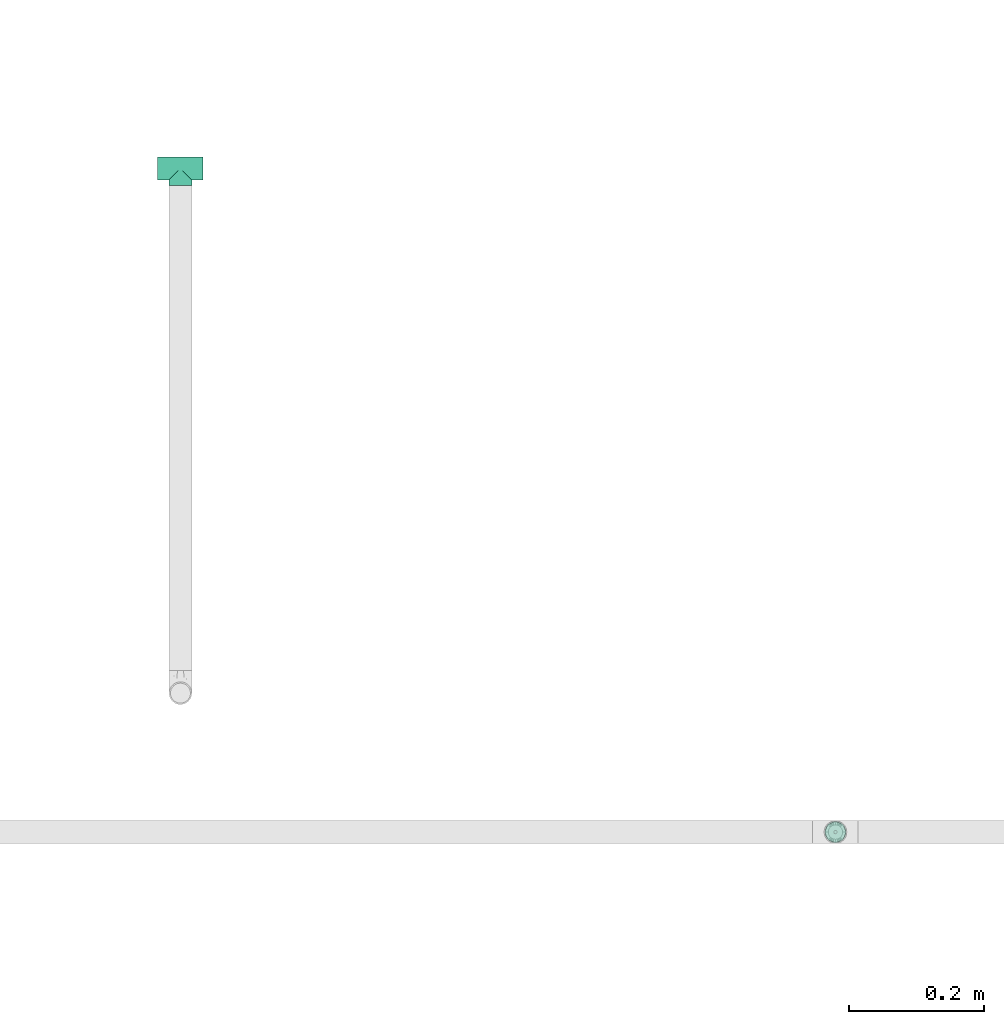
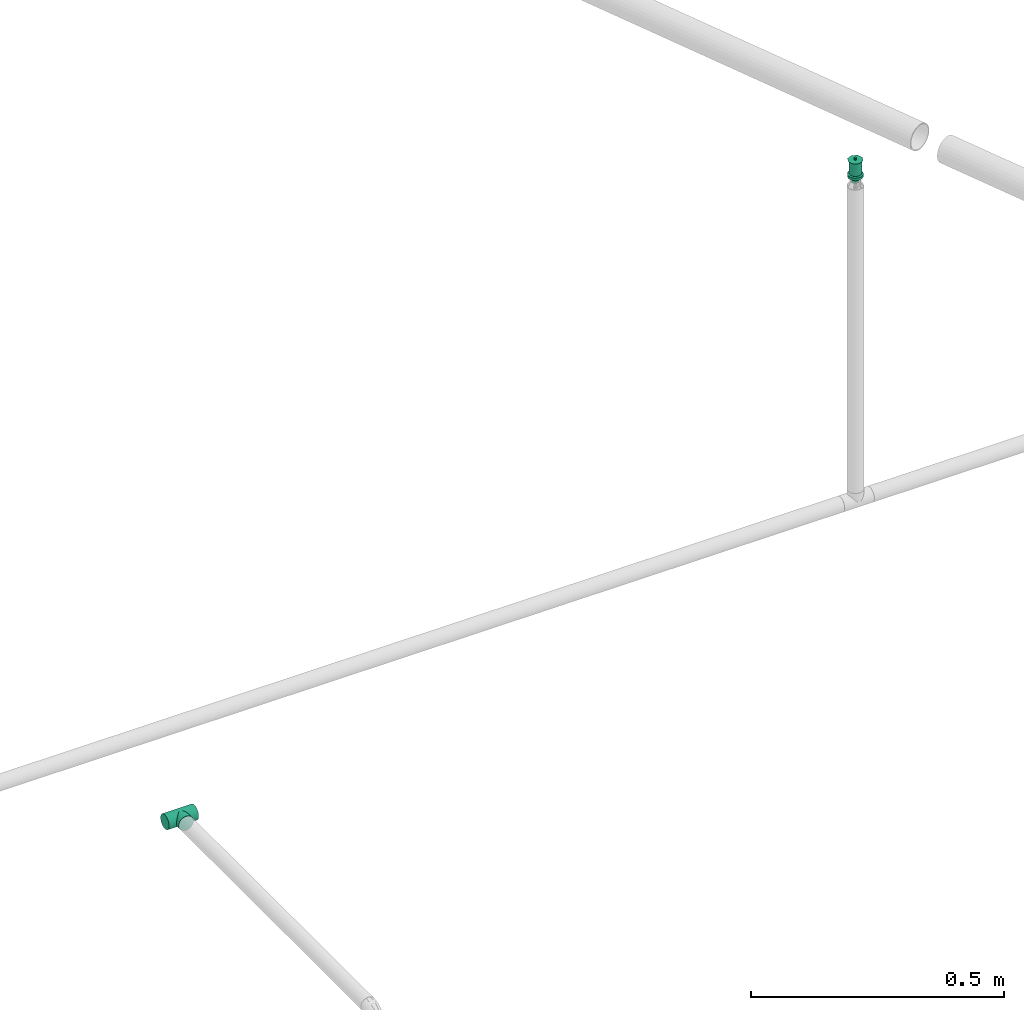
# One storey, part 30 of 94: 1 flow fitting, 1 flow terminal.
"""IFC2X3 building model written with IfcOpenShell, lengths in millimetres."""

from ifc_helpers import new_model, entity, si_unit, converted_unit, derived_unit, direction, frame, origin_with_axes, place, context, subcontext, project, spatial, open_shell, surface_model, source, transform, mapped, type_object, element, save


model = new_model("IFC2X3")

# Units and contexts
model_context = context("Model", 3, precision=0.01, world=frame((0.0, 4.29681676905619e-09, 0.0)), true_north=direction((4.01073788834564e-13, 1.0)))
plan_context = context("Plan", 3, precision=0.01, world=frame((0.0, 4.29681676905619e-09, 0.0)), true_north=direction((4.01073788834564e-13, 1.0)))
body_context = subcontext(model_context, "Body", "Model", "MODEL_VIEW")
ifc_project = project(units=[converted_unit("PLANEANGLEUNIT", "DEGREE", entity("IfcPositiveLengthMeasure", 0.0174532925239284), si_unit("PLANEANGLEUNIT", "RADIAN"), dimensions=[0, 0, 0, 0, 0, 0, 0]), si_unit("AREAUNIT", "SQUARE_METRE"), si_unit("LENGTHUNIT", "METRE", prefix="MILLI"), si_unit("MASSUNIT", "GRAM", prefix="KILO"), si_unit("POWERUNIT", "WATT"), si_unit("PRESSUREUNIT", "PASCAL", prefix="KILO"), si_unit("FORCEUNIT", "NEWTON", prefix="KILO"), si_unit("ELECTRICVOLTAGEUNIT", "VOLT"), si_unit("ELECTRICCURRENTUNIT", "AMPERE"), si_unit("THERMODYNAMICTEMPERATUREUNIT", "DEGREE_CELSIUS"), si_unit("TIMEUNIT", "SECOND"), si_unit("VOLUMEUNIT", "CUBIC_METRE"), derived_unit("LINEARVELOCITYUNIT", [(si_unit("LENGTHUNIT", "METRE"), 1), (si_unit("TIMEUNIT", "SECOND"), -1)]), derived_unit("VOLUMETRICFLOWRATEUNIT", [(si_unit("VOLUMEUNIT", "CUBIC_METRE"), 1), (si_unit("TIMEUNIT", "SECOND"), -1)]), derived_unit("THERMALTRANSMITTANCEUNIT", [(si_unit("POWERUNIT", "WATT"), 1), (si_unit("THERMODYNAMICTEMPERATUREUNIT", "KELVIN"), -1), (si_unit("AREAUNIT", "SQUARE_METRE"), -1)]), derived_unit("SOUNDPRESSUREUNIT", [(si_unit("PRESSUREUNIT", "PASCAL"), 1)])], contexts=[model_context, plan_context])

# Site, building, storey
site_placement = place(None, frame((0.0, -4.29681676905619e-09, 0.0), z_axis=(0.0, 0.0, 1.0), x_axis=(1.0, 0.0, 0.0)))
site = spatial("IfcSite", under=ifc_project, at=site_placement, CompositionType="ELEMENT")
building_placement = place(site_placement, frame((0.0, 4.29681676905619e-09, 0.0), z_axis=(0.0, 0.0, 1.0), x_axis=(1.0, 0.0, 0.0)))
building = spatial("IfcBuilding", under=site, at=building_placement, Name="mc-building", CompositionType="ELEMENT")
storey_placement = place(building_placement, frame((0.0, 0.0, 210900.0), z_axis=(0.0, 0.0, 1.0), x_axis=(1.0, 0.0, 0.0)))
storey = spatial("IfcBuildingStorey", under=building, at=storey_placement, Name="Nivå F", CompositionType="ELEMENT", Elevation=210900.0)

# Flow fitting
pipe_fitting_type = type_object("IfcPipeFittingType", Name="magi_pipe_fe_tee_centric_90_NOR", PredefinedType="JUNCTION")
shared_shape_1 = source(origin_with_axes(), body_context, "Body", "SurfaceModel", [
    surface_model("IfcShellBasedSurfaceModel", [(-33.8, 4.37404, -16.32415), (-33.8, 0.0, -16.9), (-33.8, 16.32415, -4.37404), (-33.8, 8.45, -14.63583), (-33.8, 11.9501, -11.9501), (-33.8, 14.63583, -8.45), (-33.8, -16.9, 0.0), (-33.8, -11.9501, -11.9501), (-33.8, -14.63583, -8.45), (-33.8, -8.45, -14.63583), (-33.8, -4.37404, -16.32415), (-33.8, -16.32415, -4.37404), (-33.8, 14.63583, 8.45), (-33.8, 16.32415, 4.37404), (-33.8, -8.45, 14.63583), (-33.8, 8.45, 14.63583), (-33.8, 11.9501, 11.9501), (-33.8, 4.37404, 16.32415), (-33.8, 0.0, 16.9), (-33.8, -11.9501, 11.9501), (-33.8, -14.63583, 8.45), (-33.8, -16.32415, 4.37404), (-33.8, -4.37404, 16.32415), (-33.8, 16.9, 0.0), (33.8, 4.37404, -16.32415), (33.8, -16.9, 0.0), (33.8, 0.0, -16.9), (33.8, 14.63583, -8.45), (33.8, 8.45, -14.63583), (33.8, 16.32415, -4.37404), (33.8, 11.9501, -11.9501), (33.8, -16.32415, 4.37404), (33.8, -8.45, -14.63583), (33.8, -4.37404, -16.32415), (33.8, -11.9501, -11.9501), (33.8, -14.63583, -8.45), (33.8, -16.32415, -4.37404), (33.8, 16.32415, 4.37404), (33.8, 8.45, 14.63583), (33.8, 14.63583, 8.45), (33.8, 11.9501, 11.9501), (33.8, -8.45, 14.63583), (33.8, 4.37404, 16.32415), (33.8, -14.63583, 8.45), (33.8, -11.9501, 11.9501), (33.8, 0.0, 16.9), (33.8, -4.37404, 16.32415), (33.8, 16.9, 0.0), (16.28698, -16.28698, 4.51047), (16.9, -16.9, 0.0), (14.62704, -14.62704, 8.4652), (9.47213, -9.47213, 13.99602), (12.26343, -12.26343, 11.62834), (-16.9, -16.9, 0.0), (-16.28698, -16.28698, 4.51047), (-14.62704, -14.62704, 8.4652), (-12.26343, -12.26343, 11.62834), (-9.47213, -9.47213, 13.99602), (-6.42894, -6.42894, 15.62942), (6.42894, -6.42894, 15.62942), (3.24522, -3.24522, 16.58549), (0.0, 0.0, 16.9), (-3.24522, -3.24522, 16.58549), (3.24522, -3.24522, -16.58549), (0.0, 0.0, -16.9), (-3.24522, -3.24522, -16.58549), (-6.42894, -6.42894, -15.62942), (6.42894, -6.42894, -15.62942), (9.47213, -9.47213, -13.99602), (12.26343, -12.26343, -11.62834), (14.62704, -14.62704, -8.4652), (16.28698, -16.28698, -4.51047), (-9.47213, -9.47213, -13.99602), (-12.26343, -12.26343, -11.62834), (-16.28698, -16.28698, -4.51047), (-14.62704, -14.62704, -8.4652), (4.37404, -25.35, -16.32415), (-16.9, -25.35, 0.0), (0.0, -25.35, -16.9), (14.63583, -25.35, -8.45), (8.45, -25.35, -14.63583), (16.32415, -25.35, -4.37404), (11.9501, -25.35, -11.9501), (-11.9501, -25.35, -11.9501), (-8.45, -25.35, -14.63583), (-4.37404, -25.35, -16.32415), (-14.63583, -25.35, -8.45), (-16.32415, -25.35, -4.37404), (16.9, -25.35, 0.0), (8.45, -25.35, 14.63583), (16.32415, -25.35, 4.37404), (14.63583, -25.35, 8.45), (-8.45, -25.35, 14.63583), (11.9501, -25.35, 11.9501), (4.37404, -25.35, 16.32415), (-16.32415, -25.35, 4.37404), (-11.9501, -25.35, 11.9501), (-14.63583, -25.35, 8.45), (0.0, -25.35, 16.9), (-4.37404, -25.35, 16.32415)], [open_shell([[[0, 1, 2]], [[3, 0, 4]], [[0, 2, 5]], [[4, 0, 5]], [[6, 2, 1]], [[7, 8, 9]], [[1, 10, 9]], [[11, 6, 8]], [[1, 9, 8]], [[1, 8, 6]], [[6, 12, 2]], [[12, 13, 2]], [[14, 12, 6]], [[12, 14, 15]], [[16, 12, 15]], [[17, 15, 18]], [[19, 14, 20]], [[21, 20, 14]], [[22, 18, 14]], [[14, 6, 21]], [[14, 18, 15]], [[23, 2, 13]], [[24, 25, 26]], [[27, 24, 28]], [[27, 29, 24]], [[27, 28, 30]], [[31, 25, 24]], [[26, 32, 33]], [[26, 34, 32]], [[35, 25, 36]], [[35, 34, 26]], [[25, 35, 26]], [[24, 29, 31]], [[29, 37, 38]], [[38, 37, 39]], [[38, 31, 29]], [[38, 39, 40]], [[41, 38, 42]], [[43, 41, 44]], [[41, 43, 31]], [[41, 45, 46]], [[41, 31, 38]], [[42, 45, 41]], [[29, 47, 37]], [[31, 43, 48]], [[25, 31, 49]], [[49, 31, 48]], [[43, 50, 48]], [[44, 41, 51]], [[50, 43, 52]], [[51, 52, 44]], [[52, 43, 44]], [[53, 54, 21]], [[53, 21, 6]], [[21, 54, 20]], [[54, 55, 20]], [[56, 57, 19]], [[19, 20, 56]], [[19, 57, 14]], [[56, 20, 55]], [[14, 57, 58]], [[51, 41, 59]], [[60, 45, 61]], [[59, 46, 60]], [[46, 59, 41]], [[60, 46, 45]], [[61, 45, 42]], [[39, 37, 13]], [[16, 38, 40]], [[12, 40, 39]], [[42, 38, 15]], [[23, 37, 47]], [[62, 61, 18]], [[62, 22, 58]], [[22, 62, 18]], [[58, 22, 14]], [[61, 17, 18]], [[42, 17, 61]], [[15, 17, 42]], [[15, 38, 16]], [[12, 16, 40]], [[13, 12, 39]], [[37, 23, 13]], [[5, 27, 30]], [[23, 47, 29]], [[30, 28, 3]], [[27, 2, 29]], [[26, 33, 63]], [[26, 64, 24]], [[64, 26, 63]], [[28, 24, 0]], [[64, 0, 24]], [[4, 30, 3]], [[2, 27, 5]], [[5, 30, 4]], [[2, 23, 29]], [[65, 66, 10]], [[1, 0, 64]], [[1, 65, 10]], [[66, 9, 10]], [[0, 3, 28]], [[1, 64, 65]], [[63, 33, 67]], [[32, 34, 68]], [[69, 68, 34]], [[35, 70, 69]], [[69, 34, 35]], [[32, 68, 67]], [[36, 25, 49]], [[36, 71, 35]], [[71, 36, 49]], [[35, 71, 70]], [[72, 9, 66]], [[72, 7, 9]], [[7, 72, 73]], [[7, 73, 8]], [[74, 53, 11]], [[75, 74, 8]], [[74, 11, 8]], [[11, 53, 6]], [[75, 8, 73]], [[32, 67, 33]], [[76, 77, 78]], [[79, 76, 80]], [[79, 81, 76]], [[79, 80, 82]], [[77, 76, 81]], [[78, 83, 84]], [[84, 85, 78]], [[86, 77, 87]], [[83, 78, 86]], [[77, 86, 78]], [[81, 88, 77]], [[89, 88, 90]], [[89, 90, 91]], [[92, 77, 89]], [[89, 91, 93]], [[92, 89, 94]], [[95, 96, 97]], [[96, 95, 92]], [[92, 98, 99]], [[95, 77, 92]], [[94, 98, 92]], [[89, 77, 88]], [[77, 95, 53]], [[54, 53, 95]], [[97, 96, 56]], [[96, 92, 57]], [[95, 97, 54]], [[58, 92, 99]], [[55, 54, 97]], [[56, 55, 97]], [[58, 57, 92]], [[98, 61, 62]], [[58, 99, 62]], [[56, 96, 57]], [[62, 99, 98]], [[94, 60, 98]], [[89, 59, 94]], [[91, 90, 48]], [[52, 93, 91]], [[93, 51, 89]], [[49, 90, 88]], [[59, 60, 94]], [[51, 59, 89]], [[49, 48, 90]], [[50, 52, 91]], [[48, 50, 91]], [[51, 93, 52]], [[98, 60, 61]], [[88, 81, 49]], [[71, 49, 81]], [[79, 82, 69]], [[82, 80, 68]], [[81, 79, 71]], [[67, 80, 76]], [[70, 71, 79]], [[69, 70, 79]], [[67, 68, 80]], [[78, 64, 63]], [[67, 76, 63]], [[69, 82, 68]], [[63, 76, 78]], [[85, 65, 78]], [[84, 66, 85]], [[86, 87, 74]], [[86, 73, 83]], [[72, 84, 83]], [[53, 87, 77]], [[66, 65, 85]], [[72, 66, 84]], [[53, 74, 87]], [[75, 73, 86]], [[74, 75, 86]], [[72, 83, 73]], [[78, 65, 64]]])]),
])
flow_fitting_placement = place(storey_placement, frame((719000.0, 436180.95076, 2575.41227999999), z_axis=(-1.1999999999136e-05, 0.0, -0.999999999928), x_axis=(-0.999999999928, 0.0, 1.1999999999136e-05)))
element("IfcFlowFitting", 1, at=flow_fitting_placement, inside=storey, type_object=pipe_fitting_type, Name="magi_pipe_fe_tee_centric_90_NOR", context=body_context, shape_type="MappedRepresentation", body=[
    mapped(shared_shape_1, transform((0.0, 0.0, 0.0), scale=1.0)),
])

# Flow terminal
fire_suppression_terminal_type = type_object("IfcFireSuppressionTerminalType", Name="68DGR-STD-STÅENDE", PredefinedType="NOTDEFINED")
shared_shape_2 = source(origin_with_axes(), body_context, "Body", "SurfaceModel", [
    surface_model("IfcShellBasedSurfaceModel", [(3.36465, -12.55704, 51.0), (6.5, -11.25833, 51.0), (9.19239, -9.19239, 51.0), (12.55704, -3.36465, 51.0), (-11.25833, -6.5, 51.0), (11.25833, -6.5, 51.0), (-13.0, 0.0, 51.0), (0.0, -13.0, 51.0), (-6.5, -11.25833, 51.0), (-3.36465, -12.55704, 51.0), (-9.19239, -9.19239, 51.0), (-12.55704, -3.36465, 51.0), (13.0, 0.0, 51.0), (12.55704, 3.36465, 51.0), (11.25833, 6.5, 51.0), (9.19239, 9.19239, 51.0), (6.5, 11.25833, 51.0), (3.36465, 12.55704, 51.0), (0.0, 13.0, 51.0), (-3.36465, 12.55704, 51.0), (-12.55704, 3.36465, 51.0), (-9.19239, 9.19239, 51.0), (-11.25833, 6.5, 51.0), (-6.5, 11.25833, 51.0), (0.0, 13.0, 21.14766), (3.36465, 12.55704, 21.14766), (6.5, 11.25833, 21.14766), (-3.36465, 12.55704, 21.14766), (9.19239, 9.19239, 21.14766), (11.25833, 6.5, 21.14766), (12.55704, 3.36465, 21.14766), (-12.55704, 3.36465, 21.14766), (-11.25833, -6.5, 21.14766), (-9.19239, 9.19239, 21.14766), (-6.5, 11.25833, 21.14766), (-11.25833, 6.5, 21.14766), (-13.0, 0.0, 21.14766), (12.55704, -3.36465, 21.14766), (9.19239, -9.19239, 21.14766), (11.25833, -6.5, 21.14766), (6.5, -11.25833, 21.14766), (3.36465, -12.55704, 21.14766), (-6.5, -11.25833, 21.14766), (-9.19239, -9.19239, 21.14766), (-12.55704, -3.36465, 21.14766), (0.0, -13.0, 21.14766), (-3.36465, -12.55704, 21.14766), (13.0, 0.0, 21.14766), (7.24444, -1.94114, 0.1), (1.94114, -7.24444, 0.1), (3.75, -6.49519, 0.1), (5.3033, -5.3033, 0.1), (-5.3033, -5.3033, 0.1), (6.49519, -3.75, 0.1), (5.3033, 5.3033, 0.1), (0.0, -7.5, 0.1), (-3.75, -6.49519, 0.1), (-1.94114, -7.24444, 0.1), (-7.24444, -1.94114, 0.1), (-6.49519, -3.75, 0.1), (-7.24444, 1.94114, 0.1), (7.5, 0.0, 0.1), (6.49519, 3.75, 0.1), (-6.49519, 3.75, 0.1), (1.94114, 7.24444, 0.1), (0.0, 7.5, 0.1), (3.75, 6.49519, 0.1), (-7.5, 0.0, 0.1), (-5.3033, 5.3033, 0.1), (-1.94114, 7.24444, 0.1), (-3.75, 6.49519, 0.1), (7.24444, 1.94114, 0.1), (1.94114, 7.24444, -0.1), (-6.49519, 3.75, -0.1), (0.0, 7.5, -0.1), (5.3033, 5.3033, -0.1), (3.75, 6.49519, -0.1), (6.49519, 3.75, -0.1), (7.24444, 1.94114, -0.1), (-1.94114, 7.24444, -0.1), (-5.3033, 5.3033, -0.1), (-3.75, 6.49519, -0.1), (-7.24444, 1.94114, -0.1), (-7.24444, -1.94114, -0.1), (-7.5, 0.0, -0.1), (7.5, 0.0, -0.1), (7.24444, -1.94114, -0.1), (-5.3033, -5.3033, -0.1), (1.94114, -7.24444, -0.1), (6.49519, -3.75, -0.1), (5.3033, -5.3033, -0.1), (3.75, -6.49519, -0.1), (-6.49519, -3.75, -0.1), (-3.75, -6.49519, -0.1), (0.0, -7.5, -0.1), (-1.94114, -7.24444, -0.1), (0.0, -2.5, 51.0), (-2.5, 0.0, 51.0), (0.0, 2.5, 51.0), (2.5, 0.0, 51.0), (0.0, -16.0, 53.0), (11.31371, -11.31371, 53.0), (-11.31371, -11.31371, 53.0), (-16.0, 0.0, 53.0), (16.0, 0.0, 53.0), (11.31371, 11.31371, 53.0), (0.0, 16.0, 53.0), (-11.31371, 11.31371, 53.0), (1.25, -2.16506, 57.0), (0.0, -2.5, 57.0), (0.64705, -2.41481, 57.0), (2.41481, -0.64705, 57.0), (1.76777, -1.76777, 57.0), (-2.41481, -0.64705, 57.0), (-2.5, 0.0, 57.0), (2.16506, -1.25, 57.0), (-1.25, -2.16506, 57.0), (-0.64705, -2.41481, 57.0), (-1.76777, -1.76777, 57.0), (-2.16506, -1.25, 57.0), (2.5, 0.0, 57.0), (2.41481, 0.64705, 57.0), (2.16506, 1.25, 57.0), (1.76777, 1.76777, 57.0), (0.64705, 2.41481, 57.0), (1.25, 2.16506, 57.0), (-1.76777, 1.76777, 57.0), (0.0, 2.5, 57.0), (-2.16506, 1.25, 57.0), (-2.41481, 0.64705, 57.0), (-0.64705, 2.41481, 57.0), (-1.25, 2.16506, 57.0), (1.25, 2.16506, 51.0), (1.76777, 1.76777, 51.0), (1.15, 1.99186, 51.0), (0.59528, 2.22163, 51.0), (0.64705, 2.41481, 51.0), (0.0, 2.3, 51.0), (1.62635, 1.62635, 51.0), (2.41481, 0.64705, 51.0), (2.3, 0.0, 51.0), (2.22163, 0.59528, 51.0), (2.16506, 1.25, 51.0), (1.99186, 1.15, 51.0), (-0.59528, 2.22163, 51.0), (-0.64705, 2.41481, 51.0), (-1.15, 1.99186, 51.0), (-1.76777, 1.76777, 51.0), (-1.25, 2.16506, 51.0), (-1.62635, 1.62635, 51.0), (-1.99186, 1.15, 51.0), (-2.16506, 1.25, 51.0), (-2.22163, 0.59528, 51.0), (-2.41481, 0.64705, 51.0), (-2.3, 0.0, 51.0), (2.41481, -0.64705, 51.0), (2.22163, -0.59528, 51.0), (1.99186, -1.15, 51.0), (2.16506, -1.25, 51.0), (1.62635, -1.62635, 51.0), (1.76777, -1.76777, 51.0), (1.25, -2.16506, 51.0), (1.15, -1.99186, 51.0), (0.59528, -2.22163, 51.0), (0.64705, -2.41481, 51.0), (0.0, -2.3, 51.0), (-2.16506, -1.25, 51.0), (-1.99186, -1.15, 51.0), (-1.76777, -1.76777, 51.0), (-1.62635, -1.62635, 51.0), (-2.41481, -0.64705, 51.0), (-2.22163, -0.59528, 51.0), (-0.59528, -2.22163, 51.0), (-0.64705, -2.41481, 51.0), (-1.15, -1.99186, 51.0), (-1.25, -2.16506, 51.0), (1.62635, -1.62635, 56.8), (1.15, -1.99186, 56.8), (0.59528, -2.22163, 56.8), (0.0, -2.3, 56.8), (2.22163, 0.59528, 56.8), (1.99186, -1.15, 56.8), (2.22163, -0.59528, 56.8), (-0.59528, -2.22163, 56.8), (-1.15, -1.99186, 56.8), (-1.62635, -1.62635, 56.8), (-1.99186, -1.15, 56.8), (-2.22163, -0.59528, 56.8), (-1.99186, 1.15, 56.8), (2.3, 0.0, 56.8), (1.62635, 1.62635, 56.8), (1.99186, 1.15, 56.8), (1.15, 1.99186, 56.8), (0.0, 2.3, 56.8), (0.59528, 2.22163, 56.8), (-2.22163, 0.59528, 56.8), (-2.3, 0.0, 56.8), (-1.15, 1.99186, 56.8), (-0.59528, 2.22163, 56.8), (-1.62635, 1.62635, 56.8), (4.1411, -15.45481, 19.0), (8.0, -13.85641, 19.0), (11.31371, -11.31371, 19.0), (-8.0, -13.85641, 19.0), (15.45481, -4.1411, 19.0), (16.0, 0.0, 19.0), (13.85641, -8.0, 19.0), (0.0, -16.0, 19.0), (-4.1411, -15.45481, 19.0), (-13.85641, -8.0, 19.0), (-11.31371, -11.31371, 19.0), (-15.45481, -4.1411, 19.0), (15.45481, 4.1411, 19.0), (13.85641, 8.0, 19.0), (11.31371, 11.31371, 19.0), (-4.1411, 15.45481, 19.0), (8.0, 13.85641, 19.0), (4.1411, 15.45481, 19.0), (0.0, 16.0, 19.0), (-13.85641, 8.0, 19.0), (-15.45481, 4.1411, 19.0), (-16.0, 0.0, 19.0), (-11.31371, 11.31371, 19.0), (-8.0, 13.85641, 19.0), (0.0, 16.0, 13.0), (4.1411, 15.45481, 13.0), (8.0, 13.85641, 13.0), (-4.1411, 15.45481, 13.0), (11.31371, 11.31371, 13.0), (13.85641, 8.0, 13.0), (15.45481, 4.1411, 13.0), (-15.45481, -4.1411, 13.0), (-11.31371, 11.31371, 13.0), (-8.0, 13.85641, 13.0), (-13.85641, 8.0, 13.0), (-15.45481, 4.1411, 13.0), (-16.0, 0.0, 13.0), (4.1411, -15.45481, 13.0), (16.0, 0.0, 13.0), (15.45481, -4.1411, 13.0), (13.85641, -8.0, 13.0), (11.31371, -11.31371, 13.0), (8.0, -13.85641, 13.0), (-8.0, -13.85641, 13.0), (-13.85641, -8.0, 13.0), (-11.31371, -11.31371, 13.0), (0.0, -16.0, 13.0), (-4.1411, -15.45481, 13.0), (7.24444, -1.94114, 13.0), (1.94114, -7.24444, 13.0), (3.75, -6.49519, 13.0), (5.3033, -5.3033, 13.0), (-5.3033, -5.3033, 13.0), (6.49519, -3.75, 13.0), (5.3033, 5.3033, 13.0), (0.0, -7.5, 13.0), (-3.75, -6.49519, 13.0), (-1.94114, -7.24444, 13.0), (-7.24444, -1.94114, 13.0), (-6.49519, -3.75, 13.0), (-7.24444, 1.94114, 13.0), (7.5, 0.0, 13.0), (6.49519, 3.75, 13.0), (-6.49519, 3.75, 13.0), (1.94114, 7.24444, 13.0), (0.0, 7.5, 13.0), (3.75, 6.49519, 13.0), (-7.5, 0.0, 13.0), (-5.3033, 5.3033, 13.0), (-1.94114, 7.24444, 13.0), (-3.75, 6.49519, 13.0), (7.24444, 1.94114, 13.0), (3.75, 6.49519, 0.0), (5.3033, 5.3033, 0.0), (3.65, 6.32199, 0.0), (1.88938, 7.05126, 0.0), (0.0, 7.3, 0.0), (1.94114, 7.24444, 0.0), (0.0, 7.5, 0.0), (5.16188, 5.16188, 0.0), (7.24444, 1.94114, 0.0), (7.3, 0.0, 0.0), (7.05126, 1.88938, 0.0), (7.5, 0.0, 0.0), (6.49519, 3.75, 0.0), (6.32199, 3.65, 0.0), (-1.88938, 7.05126, 0.0), (-1.94114, 7.24444, 0.0), (-3.65, 6.32199, 0.0), (-5.3033, 5.3033, 0.0), (-3.75, 6.49519, 0.0), (-5.16188, 5.16188, 0.0), (-6.32199, 3.65, 0.0), (-6.49519, 3.75, 0.0), (-7.05126, 1.88938, 0.0), (-7.24444, 1.94114, 0.0), (-7.3, 0.0, 0.0), (-7.5, 0.0, 0.0), (7.24444, -1.94114, 0.0), (7.05126, -1.88938, 0.0), (6.32199, -3.65, 0.0), (6.49519, -3.75, 0.0), (5.16188, -5.16188, 0.0), (5.3033, -5.3033, 0.0), (3.75, -6.49519, 0.0), (3.65, -6.32199, 0.0), (1.88938, -7.05126, 0.0), (1.94114, -7.24444, 0.0), (0.0, -7.3, 0.0), (0.0, -7.5, 0.0), (-6.49519, -3.75, 0.0), (-6.32199, -3.65, 0.0), (-5.3033, -5.3033, 0.0), (-5.16188, -5.16188, 0.0), (-7.24444, -1.94114, 0.0), (-7.05126, -1.88938, 0.0), (-1.88938, -7.05126, 0.0), (-1.94114, -7.24444, 0.0), (-3.65, -6.32199, 0.0), (-3.75, -6.49519, 0.0), (1.88938, -7.05126, 12.8), (0.0, -7.3, 12.8), (3.65, -6.32199, 12.8), (5.16188, -5.16188, 12.8), (6.32199, -3.65, 12.8), (7.05126, 1.88938, 12.8), (7.05126, -1.88938, 12.8), (-5.16188, -5.16188, 12.8), (-1.88938, -7.05126, 12.8), (-3.65, -6.32199, 12.8), (-6.32199, -3.65, 12.8), (-7.05126, -1.88938, 12.8), (0.0, 7.3, 12.8), (7.3, 0.0, 12.8), (6.32199, 3.65, 12.8), (5.16188, 5.16188, 12.8), (3.65, 6.32199, 12.8), (1.88938, 7.05126, 12.8), (-6.32199, 3.65, 12.8), (-7.05126, 1.88938, 12.8), (-7.3, 0.0, 12.8), (-3.65, 6.32199, 12.8), (-1.88938, 7.05126, 12.8), (-5.16188, 5.16188, 12.8)], [open_shell([[[0, 1, 2]], [[0, 2, 3]], [[0, 3, 4]], [[3, 2, 5]], [[6, 4, 3]], [[7, 8, 9]], [[7, 0, 8]], [[8, 4, 10]], [[0, 4, 8]], [[4, 6, 11]], [[6, 3, 12]], [[13, 14, 15]], [[6, 13, 15]], [[16, 17, 18]], [[15, 16, 19]], [[18, 19, 16]], [[20, 21, 22]], [[20, 6, 15]], [[21, 19, 23]], [[19, 21, 20]], [[15, 19, 20]], [[13, 6, 12]], [[24, 25, 26]], [[27, 24, 26]], [[28, 29, 30]], [[26, 28, 31]], [[28, 32, 31]], [[27, 33, 34]], [[33, 27, 31]], [[33, 31, 35]], [[27, 26, 31]], [[31, 32, 36]], [[32, 28, 30]], [[32, 30, 37]], [[38, 37, 39]], [[38, 40, 41]], [[38, 41, 37]], [[32, 37, 41]], [[32, 42, 43]], [[44, 36, 32]], [[42, 45, 46]], [[42, 32, 41]], [[45, 42, 41]], [[30, 47, 37]], [[4, 32, 43]], [[8, 42, 46]], [[43, 42, 10]], [[9, 46, 45]], [[36, 11, 6]], [[11, 36, 44]], [[11, 44, 4]], [[44, 32, 4]], [[43, 10, 4]], [[8, 10, 42]], [[46, 9, 8]], [[45, 7, 9]], [[0, 41, 40]], [[38, 1, 40]], [[5, 39, 37]], [[38, 39, 2]], [[3, 37, 47]], [[41, 0, 7]], [[40, 1, 0]], [[38, 2, 1]], [[39, 5, 2]], [[3, 5, 37]], [[47, 12, 3]], [[41, 7, 45]], [[30, 13, 47]], [[29, 14, 30]], [[25, 24, 17]], [[15, 29, 28]], [[30, 14, 13]], [[13, 12, 47]], [[16, 26, 17]], [[16, 15, 28]], [[26, 25, 17]], [[15, 14, 29]], [[28, 26, 16]], [[24, 18, 17]], [[19, 27, 34]], [[33, 23, 34]], [[22, 35, 31]], [[33, 35, 21]], [[20, 31, 36]], [[27, 19, 18]], [[34, 23, 19]], [[33, 21, 23]], [[35, 22, 21]], [[20, 22, 31]], [[36, 6, 20]], [[27, 18, 24]], [[48, 49, 50]], [[48, 50, 51]], [[49, 48, 52]], [[48, 51, 53]], [[54, 52, 48]], [[55, 56, 57]], [[56, 55, 52]], [[52, 58, 59]], [[52, 55, 49]], [[52, 60, 58]], [[54, 48, 61]], [[62, 54, 61]], [[54, 63, 52]], [[64, 65, 54]], [[64, 54, 66]], [[63, 54, 65]], [[63, 60, 52]], [[67, 58, 60]], [[68, 69, 70]], [[69, 68, 63]], [[69, 63, 65]], [[71, 62, 61]], [[72, 73, 74]], [[75, 72, 76]], [[75, 77, 78]], [[72, 75, 73]], [[78, 73, 75]], [[79, 80, 81]], [[80, 79, 73]], [[74, 73, 79]], [[78, 82, 73]], [[82, 83, 84]], [[82, 78, 85]], [[86, 87, 85]], [[88, 86, 89]], [[90, 91, 88]], [[90, 88, 89]], [[87, 86, 88]], [[83, 87, 92]], [[83, 85, 87]], [[93, 94, 95]], [[94, 93, 87]], [[88, 94, 87]], [[85, 83, 82]], [[83, 58, 84]], [[92, 59, 83]], [[56, 87, 93]], [[92, 87, 52]], [[57, 93, 95]], [[83, 59, 58]], [[58, 67, 84]], [[57, 56, 93]], [[52, 87, 56]], [[52, 59, 92]], [[55, 57, 95]], [[95, 94, 55]], [[88, 49, 94]], [[91, 50, 88]], [[53, 90, 89]], [[91, 90, 51]], [[48, 89, 86]], [[91, 51, 50]], [[50, 49, 88]], [[61, 48, 86]], [[53, 89, 48]], [[53, 51, 90]], [[85, 61, 86]], [[94, 49, 55]], [[78, 71, 85]], [[77, 62, 78]], [[66, 75, 76]], [[77, 75, 54]], [[64, 76, 72]], [[78, 62, 71]], [[71, 61, 85]], [[64, 66, 76]], [[54, 75, 66]], [[54, 62, 77]], [[65, 64, 72]], [[72, 74, 65]], [[79, 69, 74]], [[81, 70, 79]], [[63, 80, 73]], [[81, 80, 68]], [[60, 73, 82]], [[81, 68, 70]], [[70, 69, 79]], [[67, 60, 82]], [[63, 73, 60]], [[63, 68, 80]], [[84, 67, 82]], [[74, 69, 65]], [[96, 97, 98]], [[98, 99, 96]], [[100, 101, 102]], [[103, 102, 101]], [[101, 104, 103]], [[104, 105, 106]], [[107, 103, 106]], [[106, 103, 104]], [[99, 98, 105]], [[105, 104, 99]], [[98, 106, 105]], [[98, 107, 106]], [[107, 98, 97]], [[103, 107, 97]], [[97, 96, 102]], [[102, 103, 97]], [[96, 100, 102]], [[96, 101, 100]], [[101, 96, 99]], [[104, 101, 99]], [[108, 109, 110]], [[111, 108, 112]], [[113, 108, 114]], [[111, 112, 115]], [[108, 111, 114]], [[109, 116, 117]], [[116, 109, 118]], [[118, 113, 119]], [[118, 109, 108]], [[108, 113, 118]], [[111, 120, 114]], [[121, 122, 123]], [[114, 121, 123]], [[114, 123, 124]], [[124, 123, 125]], [[126, 124, 127]], [[124, 128, 129]], [[129, 114, 124]], [[126, 130, 131]], [[128, 124, 126]], [[130, 126, 127]], [[121, 114, 120]], [[132, 133, 134]], [[132, 134, 135]], [[136, 135, 137]], [[135, 136, 132]], [[136, 137, 98]], [[134, 133, 138]], [[139, 140, 141]], [[140, 139, 99]], [[139, 141, 142]], [[138, 142, 143]], [[142, 138, 133]], [[143, 142, 141]], [[98, 144, 145]], [[98, 137, 144]], [[145, 144, 146]], [[147, 148, 149]], [[146, 148, 145]], [[149, 148, 146]], [[150, 151, 147]], [[151, 150, 152]], [[150, 147, 149]], [[153, 152, 154]], [[152, 153, 151]], [[153, 154, 97]], [[99, 155, 156]], [[156, 155, 157]], [[157, 158, 159]], [[158, 157, 155]], [[159, 158, 160]], [[160, 161, 162]], [[162, 161, 163]], [[163, 164, 165]], [[164, 163, 161]], [[165, 164, 96]], [[162, 159, 160]], [[166, 167, 168]], [[168, 167, 169]], [[167, 166, 170]], [[97, 171, 170]], [[170, 171, 167]], [[97, 154, 171]], [[172, 96, 173]], [[172, 173, 174]], [[169, 175, 168]], [[175, 169, 174]], [[175, 174, 173]], [[165, 96, 172]], [[156, 140, 99]], [[170, 113, 97]], [[166, 119, 170]], [[116, 168, 175]], [[166, 168, 118]], [[117, 175, 173]], [[170, 119, 113]], [[113, 114, 97]], [[117, 116, 175]], [[118, 168, 116]], [[118, 119, 166]], [[109, 117, 173]], [[173, 96, 109]], [[164, 110, 96]], [[161, 108, 164]], [[115, 160, 158]], [[161, 160, 112]], [[111, 158, 155]], [[161, 112, 108]], [[108, 110, 164]], [[120, 111, 155]], [[115, 158, 111]], [[115, 112, 160]], [[99, 120, 155]], [[96, 110, 109]], [[139, 121, 99]], [[142, 122, 139]], [[125, 133, 132]], [[142, 133, 123]], [[124, 132, 136]], [[139, 122, 121]], [[121, 120, 99]], [[124, 125, 132]], [[123, 133, 125]], [[123, 122, 142]], [[127, 124, 136]], [[136, 98, 127]], [[145, 130, 98]], [[148, 131, 145]], [[128, 147, 151]], [[148, 147, 126]], [[129, 151, 153]], [[148, 126, 131]], [[131, 130, 145]], [[114, 129, 153]], [[128, 151, 129]], [[128, 126, 147]], [[97, 114, 153]], [[98, 130, 127]], [[176, 177, 178]], [[176, 178, 179]], [[180, 176, 179]], [[181, 176, 182]], [[180, 182, 176]], [[183, 184, 179]], [[185, 179, 184]], [[186, 187, 185]], [[185, 187, 188]], [[179, 185, 188]], [[189, 182, 180]], [[190, 191, 180]], [[192, 190, 180]], [[193, 194, 192]], [[180, 193, 192]], [[188, 193, 180]], [[195, 188, 196]], [[196, 188, 187]], [[197, 198, 199]], [[188, 199, 198]], [[188, 198, 193]], [[180, 179, 188]], [[154, 187, 171]], [[171, 186, 167]], [[174, 169, 184]], [[185, 169, 167]], [[172, 174, 183]], [[187, 186, 171]], [[154, 196, 187]], [[174, 184, 183]], [[184, 169, 185]], [[167, 186, 185]], [[172, 183, 179]], [[179, 165, 172]], [[165, 178, 163]], [[163, 177, 162]], [[157, 159, 181]], [[176, 159, 162]], [[156, 157, 182]], [[177, 176, 162]], [[163, 178, 177]], [[156, 182, 189]], [[182, 157, 181]], [[159, 176, 181]], [[156, 189, 140]], [[179, 178, 165]], [[140, 180, 141]], [[141, 191, 143]], [[134, 138, 192]], [[190, 138, 143]], [[135, 134, 194]], [[180, 191, 141]], [[140, 189, 180]], [[134, 192, 194]], [[192, 138, 190]], [[143, 191, 190]], [[135, 194, 193]], [[193, 137, 135]], [[137, 198, 144]], [[144, 197, 146]], [[150, 149, 188]], [[199, 149, 146]], [[152, 150, 195]], [[197, 199, 146]], [[144, 198, 197]], [[152, 195, 196]], [[195, 150, 188]], [[149, 199, 188]], [[152, 196, 154]], [[193, 198, 137]], [[200, 201, 202]], [[203, 200, 202]], [[204, 205, 202]], [[204, 202, 206]], [[203, 202, 205]], [[207, 203, 208]], [[207, 200, 203]], [[203, 209, 210]], [[209, 203, 211]], [[205, 211, 203]], [[205, 212, 211]], [[212, 213, 214]], [[215, 212, 214]], [[216, 217, 218]], [[214, 216, 215]], [[218, 215, 216]], [[211, 219, 220]], [[221, 211, 220]], [[222, 215, 223]], [[215, 222, 219]], [[219, 211, 215]], [[211, 212, 215]], [[224, 225, 226]], [[227, 224, 226]], [[228, 229, 230]], [[227, 226, 228]], [[227, 228, 231]], [[227, 232, 233]], [[232, 227, 234]], [[234, 231, 235]], [[231, 234, 227]], [[235, 231, 236]], [[228, 230, 231]], [[237, 238, 239]], [[237, 239, 240]], [[241, 242, 237]], [[241, 237, 240]], [[238, 237, 243]], [[244, 243, 245]], [[243, 244, 231]], [[243, 246, 247]], [[243, 231, 238]], [[237, 246, 243]], [[238, 231, 230]], [[231, 211, 236]], [[244, 209, 231]], [[203, 245, 243]], [[244, 245, 210]], [[208, 243, 247]], [[231, 209, 211]], [[211, 221, 236]], [[208, 203, 243]], [[210, 245, 203]], [[210, 209, 244]], [[207, 208, 247]], [[247, 246, 207]], [[237, 200, 246]], [[242, 201, 237]], [[206, 241, 240]], [[242, 241, 202]], [[204, 240, 239]], [[242, 202, 201]], [[201, 200, 237]], [[205, 204, 239]], [[206, 240, 204]], [[206, 202, 241]], [[238, 205, 239]], [[246, 200, 207]], [[230, 212, 238]], [[229, 213, 230]], [[216, 228, 226]], [[229, 228, 214]], [[217, 226, 225]], [[230, 213, 212]], [[212, 205, 238]], [[217, 216, 226]], [[214, 228, 216]], [[214, 213, 229]], [[218, 217, 225]], [[225, 224, 218]], [[227, 215, 224]], [[233, 223, 227]], [[219, 232, 234]], [[233, 232, 222]], [[220, 234, 235]], [[233, 222, 223]], [[223, 215, 227]], [[221, 220, 235]], [[219, 234, 220]], [[219, 222, 232]], [[236, 221, 235]], [[224, 215, 218]], [[248, 249, 250]], [[248, 250, 251]], [[249, 248, 252]], [[248, 251, 253]], [[254, 252, 248]], [[255, 256, 257]], [[256, 255, 252]], [[252, 258, 259]], [[252, 255, 249]], [[252, 260, 258]], [[254, 248, 261]], [[262, 254, 261]], [[254, 263, 252]], [[264, 265, 254]], [[264, 254, 266]], [[263, 254, 265]], [[263, 260, 252]], [[267, 258, 260]], [[268, 269, 270]], [[269, 268, 263]], [[269, 263, 265]], [[271, 262, 261]], [[272, 273, 274]], [[272, 274, 275]], [[276, 277, 275]], [[277, 276, 278]], [[275, 277, 272]], [[274, 273, 279]], [[280, 281, 282]], [[281, 280, 283]], [[280, 282, 284]], [[279, 284, 285]], [[284, 279, 273]], [[285, 284, 282]], [[278, 286, 287]], [[287, 286, 288]], [[289, 290, 291]], [[288, 290, 287]], [[288, 291, 290]], [[278, 276, 286]], [[292, 293, 289]], [[293, 292, 294]], [[292, 289, 291]], [[295, 294, 296]], [[294, 295, 293]], [[295, 296, 297]], [[283, 298, 299]], [[299, 298, 300]], [[300, 301, 302]], [[301, 300, 298]], [[302, 301, 303]], [[303, 304, 305]], [[305, 304, 306]], [[306, 307, 308]], [[307, 306, 304]], [[308, 307, 309]], [[305, 302, 303]], [[310, 311, 312]], [[312, 311, 313]], [[311, 310, 314]], [[297, 315, 314]], [[314, 315, 311]], [[297, 296, 315]], [[316, 309, 317]], [[316, 317, 318]], [[313, 319, 312]], [[313, 318, 319]], [[319, 318, 317]], [[308, 309, 316]], [[299, 281, 283]], [[314, 258, 297]], [[310, 259, 314]], [[256, 312, 319]], [[310, 312, 252]], [[257, 319, 317]], [[314, 259, 258]], [[258, 267, 297]], [[257, 256, 319]], [[252, 312, 256]], [[252, 259, 310]], [[255, 257, 317]], [[317, 309, 255]], [[307, 249, 309]], [[304, 250, 307]], [[253, 303, 301]], [[304, 303, 251]], [[248, 301, 298]], [[304, 251, 250]], [[250, 249, 307]], [[261, 248, 298]], [[253, 301, 248]], [[253, 251, 303]], [[283, 261, 298]], [[309, 249, 255]], [[280, 271, 283]], [[284, 262, 280]], [[266, 273, 272]], [[284, 273, 254]], [[264, 272, 277]], [[280, 262, 271]], [[271, 261, 283]], [[264, 266, 272]], [[254, 273, 266]], [[254, 262, 284]], [[265, 264, 277]], [[277, 278, 265]], [[287, 269, 278]], [[290, 270, 287]], [[263, 289, 293]], [[290, 289, 268]], [[260, 293, 295]], [[290, 268, 270]], [[270, 269, 287]], [[267, 260, 295]], [[263, 293, 260]], [[263, 268, 289]], [[297, 267, 295]], [[278, 269, 265]], [[320, 321, 322]], [[323, 322, 324]], [[325, 326, 322]], [[324, 322, 326]], [[322, 327, 325]], [[328, 329, 321]], [[327, 321, 329]], [[330, 331, 327]], [[322, 321, 327]], [[331, 332, 327]], [[326, 325, 333]], [[334, 325, 332]], [[335, 334, 336]], [[332, 337, 336]], [[334, 332, 336]], [[331, 338, 332]], [[339, 338, 340]], [[340, 338, 331]], [[341, 342, 343]], [[332, 338, 343]], [[332, 343, 342]], [[332, 325, 327]], [[296, 331, 315]], [[315, 330, 311]], [[318, 313, 329]], [[327, 313, 311]], [[316, 318, 328]], [[331, 330, 315]], [[296, 340, 331]], [[318, 329, 328]], [[329, 313, 327]], [[311, 330, 327]], [[316, 328, 321]], [[321, 308, 316]], [[308, 320, 306]], [[306, 322, 305]], [[300, 302, 324]], [[323, 302, 305]], [[299, 300, 326]], [[322, 323, 305]], [[306, 320, 322]], [[299, 326, 333]], [[326, 300, 324]], [[302, 323, 324]], [[299, 333, 281]], [[321, 320, 308]], [[281, 325, 282]], [[282, 334, 285]], [[274, 279, 336]], [[335, 279, 285]], [[275, 274, 337]], [[325, 334, 282]], [[281, 333, 325]], [[274, 336, 337]], [[336, 279, 335]], [[285, 334, 335]], [[275, 337, 332]], [[332, 276, 275]], [[276, 342, 286]], [[286, 341, 288]], [[292, 291, 338]], [[343, 291, 288]], [[294, 292, 339]], [[341, 343, 288]], [[286, 342, 341]], [[294, 339, 340]], [[339, 292, 338]], [[291, 343, 338]], [[294, 340, 296]], [[332, 342, 276]]])]),
])
flow_terminal_placement = place(storey_placement, frame((719973.83068, 435194.37907, 4367.0), z_axis=(0.0, 0.0, 1.0), x_axis=(1.0, 0.0, 0.0)))
element("IfcFlowTerminal", 2, at=flow_terminal_placement, inside=storey, type_object=fire_suppression_terminal_type, Name="68DGR-STD-STÅENDE", context=body_context, shape_type="MappedRepresentation", body=[
    mapped(shared_shape_2, transform((0.0, 0.0, 0.0), scale=1.0)),
])

save(model, "model.ifc")
